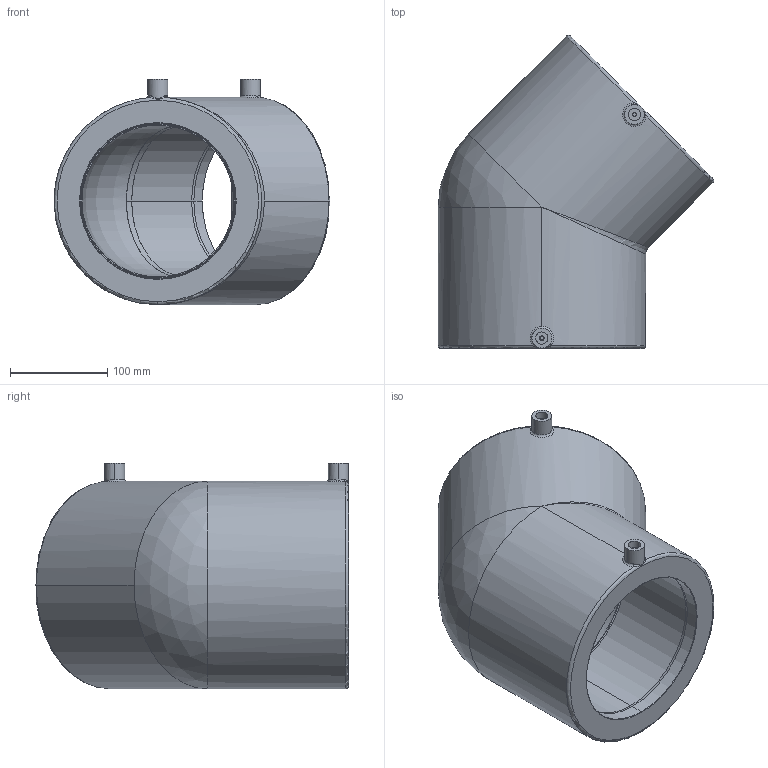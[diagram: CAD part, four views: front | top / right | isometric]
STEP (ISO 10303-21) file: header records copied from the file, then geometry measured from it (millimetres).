
FILE_DESCRIPTION (( 'STEP AP214' ), '1' );
FILE_NAME ('EBKHA160X45.STEP', '2018-09-20T12:46:03', ( '' ), ( '' ), 'SwSTEP 2.0', 'SolidWorks 2017', '' );
FILE_SCHEMA (( 'AUTOMOTIVE_DESIGN' ));
Length unit declared in the file: millimetre
Products named in the file (1): EBKHA160X45
Bounding box: 283.08 x 321.58 x 231.5 mm (x, y, z)
Volume: 4623359.6 mm3; surface area: 370880.9 mm2
Topology: 1 solids, 1 shells, 69 faces, 154 edges, 89 vertices
Faces by surface type: cylinder 24, cone 16, plane 14, torus 9, bspline 5, sphere 1
Entity records: 3223 total; most frequent: CARTESIAN_POINT 1567, DIRECTION 344, ORIENTED_EDGE 300, AXIS2_PLACEMENT_3D 151, EDGE_CURVE 150, VERTEX_POINT 89, CIRCLE 86, EDGE_LOOP 77
